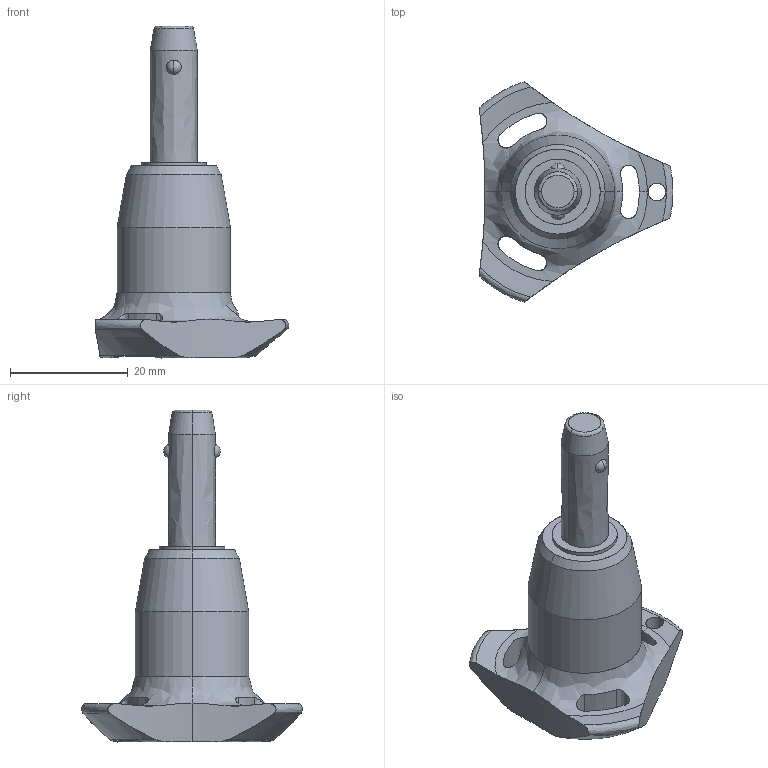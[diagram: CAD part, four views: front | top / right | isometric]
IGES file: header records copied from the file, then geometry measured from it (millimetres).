
Start section: SolidWorks IGES file using analytic representation for surfaces
Global section: file name: C:\Users\ianosborn\Desktop\QR1724_v2\QR1724_v2_20251112_IGES\QR1724.M08-015-S.igs; native system: SolidWorks 2019; preprocessor: SolidWorks 2019; author: IanOsborn; date: 251112.124758; units: millimetre
Bounding box: 33 x 37.51 x 56.5 mm (x, y, z)
Surface area: 4431.6 mm2 (no closed solid volume)
Topology: 0 solids, 0 shells, 65 faces, 1274 edges, 1270 vertices
Faces by surface type: revolution 50, bspline 15
